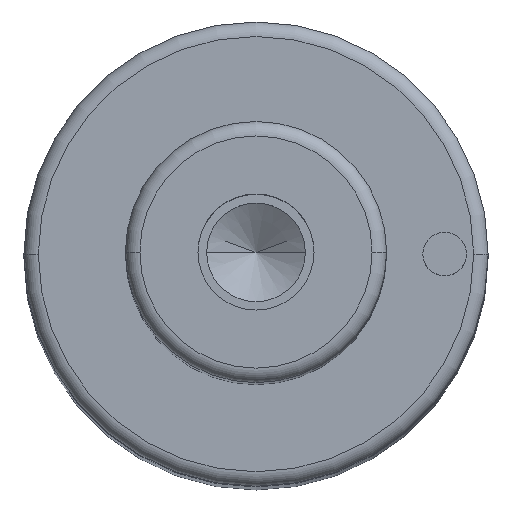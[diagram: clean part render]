
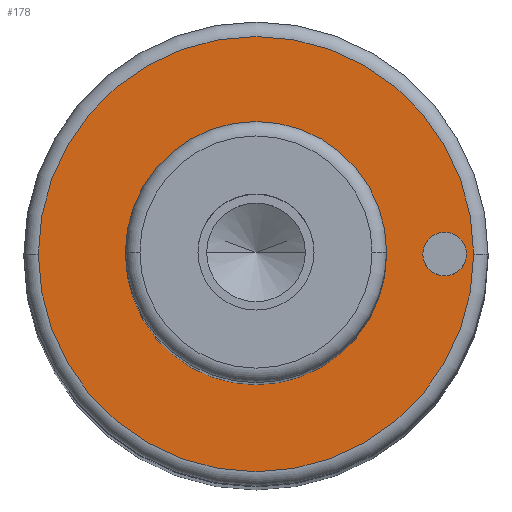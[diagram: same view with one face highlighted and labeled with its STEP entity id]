
A CAD part, top view. The second image highlights one B-rep face of the part: STEP entity #178.
In plain terms, the highlighted planar face has unit normal (0, 0, 1).
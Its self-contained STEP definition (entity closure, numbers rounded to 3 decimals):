
#105=PLANE('',#866);
#115=FACE_BOUND('',#283,.T.);
#116=FACE_BOUND('',#284,.T.);
#117=FACE_BOUND('',#285,.T.);
#178=ADVANCED_FACE('',(#115,#116,#117),#105,.T.);
#283=EDGE_LOOP('',(#473,#474));
#284=EDGE_LOOP('',(#475,#476));
#285=EDGE_LOOP('',(#477,#478));
#333=CIRCLE('',#834,9.);
#334=CIRCLE('',#836,9.);
#338=CIRCLE('',#841,15.);
#339=CIRCLE('',#843,15.);
#351=CIRCLE('',#864,1.5);
#352=CIRCLE('',#865,1.5);
#473=ORIENTED_EDGE('',*,*,#666,.F.);
#474=ORIENTED_EDGE('',*,*,#667,.F.);
#475=ORIENTED_EDGE('',*,*,#685,.F.);
#476=ORIENTED_EDGE('',*,*,#686,.F.);
#477=ORIENTED_EDGE('',*,*,#662,.T.);
#478=ORIENTED_EDGE('',*,*,#660,.T.);
#590=VERTEX_POINT('',#1233);
#591=VERTEX_POINT('',#1235);
#592=VERTEX_POINT('',#1241);
#595=VERTEX_POINT('',#1246);
#604=VERTEX_POINT('',#1285);
#605=VERTEX_POINT('',#1286);
#660=EDGE_CURVE('',#591,#590,#333,.T.);
#662=EDGE_CURVE('',#590,#591,#334,.T.);
#666=EDGE_CURVE('',#595,#592,#338,.T.);
#667=EDGE_CURVE('',#592,#595,#339,.T.);
#685=EDGE_CURVE('',#604,#605,#351,.T.);
#686=EDGE_CURVE('',#605,#604,#352,.T.);
#834=AXIS2_PLACEMENT_3D('',#1234,#985,#986);
#836=AXIS2_PLACEMENT_3D('',#1238,#990,#991);
#841=AXIS2_PLACEMENT_3D('',#1247,#1000,#1001);
#843=AXIS2_PLACEMENT_3D('',#1249,#1004,#1005);
#864=AXIS2_PLACEMENT_3D('',#1284,#1052,#1053);
#865=AXIS2_PLACEMENT_3D('',#1287,#1054,#1055);
#866=AXIS2_PLACEMENT_3D('',#1288,#1056,#1057);
#985=DIRECTION('',(0.,0.,-1.));
#986=DIRECTION('',(0.,1.,0.));
#990=DIRECTION('',(0.,0.,-1.));
#991=DIRECTION('',(0.,-1.,0.));
#1000=DIRECTION('',(0.,0.,-1.));
#1001=DIRECTION('',(0.,1.,0.));
#1004=DIRECTION('',(0.,0.,-1.));
#1005=DIRECTION('',(0.,-1.,0.));
#1052=DIRECTION('',(0.,0.,1.));
#1053=DIRECTION('',(0.,1.,0.));
#1054=DIRECTION('',(0.,0.,1.));
#1055=DIRECTION('',(0.,-1.,0.));
#1056=DIRECTION('',(0.,0.,1.));
#1057=DIRECTION('',(0.,-1.,0.));
#1233=CARTESIAN_POINT('',(-9.,0.,148.));
#1234=CARTESIAN_POINT('',(0.,0.,148.));
#1235=CARTESIAN_POINT('',(9.,0.,148.));
#1238=CARTESIAN_POINT('',(0.,0.,148.));
#1241=CARTESIAN_POINT('',(-15.,0.,148.));
#1246=CARTESIAN_POINT('',(15.,0.,148.));
#1247=CARTESIAN_POINT('',(0.,0.,148.));
#1249=CARTESIAN_POINT('',(0.,0.,148.));
#1284=CARTESIAN_POINT('',(13.,0.,148.));
#1285=CARTESIAN_POINT('',(11.5,0.,148.));
#1286=CARTESIAN_POINT('',(14.5,0.,148.));
#1287=CARTESIAN_POINT('',(13.,0.,148.));
#1288=CARTESIAN_POINT('',(0.,0.,148.));
